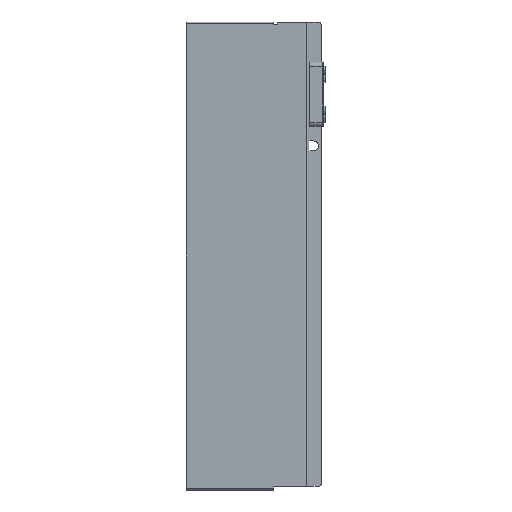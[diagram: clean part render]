
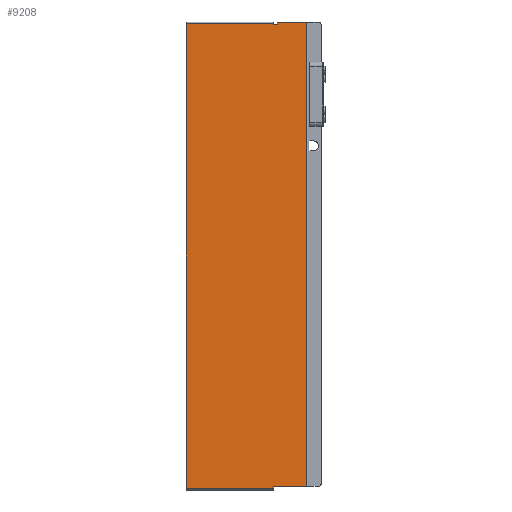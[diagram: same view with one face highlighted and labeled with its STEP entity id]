
A CAD part, left-side view. The second image highlights one B-rep face of the part: STEP entity #9208.
In plain terms, the highlighted planar face has unit normal (-1, 0, 0).
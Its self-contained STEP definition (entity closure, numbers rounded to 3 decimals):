
#32 = ORIENTED_EDGE ( 'NONE', *, *, #12169, .T. ) ;
#40 = VERTEX_POINT ( 'NONE', #8417 ) ;
#168 = EDGE_CURVE ( 'NONE', #204, #12776, #6565, .T. ) ;
#204 = VERTEX_POINT ( 'NONE', #11513 ) ;
#250 = EDGE_CURVE ( 'NONE', #5131, #204, #14104, .T. ) ;
#285 = VECTOR ( 'NONE', #10488, 1000. ) ;
#366 = DIRECTION ( 'NONE',  ( 0., 1., 0. ) ) ;
#434 = ORIENTED_EDGE ( 'NONE', *, *, #7521, .T. ) ;
#586 = CARTESIAN_POINT ( 'NONE',  ( -1.2, 20.5, 145. ) ) ;
#613 = EDGE_CURVE ( 'NONE', #12776, #10152, #13567, .T. ) ;
#680 = CARTESIAN_POINT ( 'NONE',  ( -1.2, 0., 145. ) ) ;
#956 = VERTEX_POINT ( 'NONE', #11822 ) ;
#957 = CARTESIAN_POINT ( 'NONE',  ( -1.2, 18.5, 143.7 ) ) ;
#994 = ORIENTED_EDGE ( 'NONE', *, *, #168, .T. ) ;
#1030 = LINE ( 'NONE', #9277, #3683 ) ;
#1057 = LINE ( 'NONE', #10960, #6291 ) ;
#1163 = CARTESIAN_POINT ( 'NONE',  ( -1.2, 75., 145. ) ) ;
#1591 = LINE ( 'NONE', #1163, #7504 ) ;
#1710 = AXIS2_PLACEMENT_3D ( 'NONE', #6629, #6915, #6959 ) ;
#1867 = ORIENTED_EDGE ( 'NONE', *, *, #2448, .T. ) ;
#2231 = EDGE_CURVE ( 'NONE', #13851, #40, #4700, .T. ) ;
#2288 = DIRECTION ( 'NONE',  ( 0., 0., 1. ) ) ;
#2317 = LINE ( 'NONE', #5803, #5308 ) ;
#2448 = EDGE_CURVE ( 'NONE', #4835, #5179, #9175, .T. ) ;
#2560 = ORIENTED_EDGE ( 'NONE', *, *, #250, .T. ) ;
#3319 = VECTOR ( 'NONE', #4584, 1000. ) ;
#3331 = DIRECTION ( 'NONE',  ( 1., 0., 0. ) ) ;
#3454 = CARTESIAN_POINT ( 'NONE',  ( -1.2, 0., 143.5 ) ) ;
#3683 = VECTOR ( 'NONE', #366, 1000. ) ;
#4099 = VERTEX_POINT ( 'NONE', #4693 ) ;
#4461 = EDGE_CURVE ( 'NONE', #4835, #4099, #14335, .T. ) ;
#4584 = DIRECTION ( 'NONE',  ( 0., 1., 0. ) ) ;
#4693 = CARTESIAN_POINT ( 'NONE',  ( -1.2, 20.5, -144. ) ) ;
#4700 = CIRCLE ( 'NONE', #6507, 0.2 ) ;
#4745 = VECTOR ( 'NONE', #5576, 1000. ) ;
#4773 = EDGE_LOOP ( 'NONE', ( #10393, #2560, #994, #12672, #434, #14448, #32, #10397, #9094, #5486, #4828, #10516, #1867 ) ) ;
#4828 = ORIENTED_EDGE ( 'NONE', *, *, #11224, .T. ) ;
#4835 = VERTEX_POINT ( 'NONE', #6684 ) ;
#5008 = AXIS2_PLACEMENT_3D ( 'NONE', #14429, #14481, #14281 ) ;
#5131 = VERTEX_POINT ( 'NONE', #9503 ) ;
#5179 = VERTEX_POINT ( 'NONE', #6294 ) ;
#5268 = EDGE_CURVE ( 'NONE', #5346, #956, #1591, .T. ) ;
#5308 = VECTOR ( 'NONE', #2288, 1000. ) ;
#5346 = VERTEX_POINT ( 'NONE', #7935 ) ;
#5486 = ORIENTED_EDGE ( 'NONE', *, *, #12277, .T. ) ;
#5576 = DIRECTION ( 'NONE',  ( 0., 1., 0. ) ) ;
#5803 = CARTESIAN_POINT ( 'NONE',  ( -1.2, 20.5, -146.2 ) ) ;
#5891 = VECTOR ( 'NONE', #9545, 1000. ) ;
#5955 = CARTESIAN_POINT ( 'NONE',  ( -1.2, 20.5, 143.8 ) ) ;
#5967 = DIRECTION ( 'NONE',  ( 0., -1., 0. ) ) ;
#6291 = VECTOR ( 'NONE', #9891, 1000. ) ;
#6294 = CARTESIAN_POINT ( 'NONE',  ( -1.2, 0., 145. ) ) ;
#6324 = VERTEX_POINT ( 'NONE', #5955 ) ;
#6507 = AXIS2_PLACEMENT_3D ( 'NONE', #7879, #7829, #10370 ) ;
#6550 = PLANE ( 'NONE',  #14375 ) ;
#6565 = LINE ( 'NONE', #10584, #285 ) ;
#6629 = CARTESIAN_POINT ( 'NONE',  ( -1.2, 18.7, 143.7 ) ) ;
#6684 = CARTESIAN_POINT ( 'NONE',  ( -1.2, 0., -144. ) ) ;
#6832 = EDGE_CURVE ( 'NONE', #6324, #5346, #1030, .T. ) ;
#6915 = DIRECTION ( 'NONE',  ( 1., 0., 0. ) ) ;
#6959 = DIRECTION ( 'NONE',  ( 0., 0., -1. ) ) ;
#7504 = VECTOR ( 'NONE', #8937, 1000. ) ;
#7521 = EDGE_CURVE ( 'NONE', #10152, #13851, #9195, .T. ) ;
#7673 = VECTOR ( 'NONE', #13827, 1000. ) ;
#7695 = VERTEX_POINT ( 'NONE', #12639 ) ;
#7773 = CARTESIAN_POINT ( 'NONE',  ( -1.2, -1.2, -144. ) ) ;
#7829 = DIRECTION ( 'NONE',  ( 1., 0., 0. ) ) ;
#7879 = CARTESIAN_POINT ( 'NONE',  ( -1.2, 20.3, 143.7 ) ) ;
#7935 = CARTESIAN_POINT ( 'NONE',  ( -1.2, 75., 143.8 ) ) ;
#8417 = CARTESIAN_POINT ( 'NONE',  ( -1.2, 20.5, 143.7 ) ) ;
#8917 = VECTOR ( 'NONE', #5967, 1000. ) ;
#8937 = DIRECTION ( 'NONE',  ( 0., 0., -1. ) ) ;
#9094 = ORIENTED_EDGE ( 'NONE', *, *, #5268, .T. ) ;
#9175 = LINE ( 'NONE', #680, #5891 ) ;
#9195 = LINE ( 'NONE', #3454, #3319 ) ;
#9208 = ADVANCED_FACE ( 'NONE', ( #10570 ), #6550, .F. ) ;
#9277 = CARTESIAN_POINT ( 'NONE',  ( -1.2, 0., 143.8 ) ) ;
#9503 = CARTESIAN_POINT ( 'NONE',  ( -1.2, 18.3, 145. ) ) ;
#9545 = DIRECTION ( 'NONE',  ( 0., 0., 1. ) ) ;
#9891 = DIRECTION ( 'NONE',  ( 0., -1., 0. ) ) ;
#9965 = CARTESIAN_POINT ( 'NONE',  ( -1.2, 0., 145. ) ) ;
#10152 = VERTEX_POINT ( 'NONE', #11392 ) ;
#10370 = DIRECTION ( 'NONE',  ( 0., 0., -1. ) ) ;
#10393 = ORIENTED_EDGE ( 'NONE', *, *, #10637, .F. ) ;
#10397 = ORIENTED_EDGE ( 'NONE', *, *, #6832, .T. ) ;
#10488 = DIRECTION ( 'NONE',  ( 0., 0., -1. ) ) ;
#10516 = ORIENTED_EDGE ( 'NONE', *, *, #4461, .F. ) ;
#10570 = FACE_OUTER_BOUND ( 'NONE', #4773, .T. ) ;
#10584 = CARTESIAN_POINT ( 'NONE',  ( -1.2, 18.5, 145. ) ) ;
#10637 = EDGE_CURVE ( 'NONE', #5131, #5179, #11915, .T. ) ;
#10960 = CARTESIAN_POINT ( 'NONE',  ( -1.2, 0., -145. ) ) ;
#11094 = DIRECTION ( 'NONE',  ( 0., 0., -1. ) ) ;
#11224 = EDGE_CURVE ( 'NONE', #7695, #4099, #2317, .T. ) ;
#11263 = CARTESIAN_POINT ( 'NONE',  ( -1.2, 20.3, 143.5 ) ) ;
#11392 = CARTESIAN_POINT ( 'NONE',  ( -1.2, 18.7, 143.5 ) ) ;
#11513 = CARTESIAN_POINT ( 'NONE',  ( -1.2, 18.5, 144.8 ) ) ;
#11822 = CARTESIAN_POINT ( 'NONE',  ( -1.2, 75., -145. ) ) ;
#11915 = LINE ( 'NONE', #12642, #8917 ) ;
#12169 = EDGE_CURVE ( 'NONE', #40, #6324, #13285, .T. ) ;
#12277 = EDGE_CURVE ( 'NONE', #956, #7695, #1057, .T. ) ;
#12639 = CARTESIAN_POINT ( 'NONE',  ( -1.2, 20.5, -145. ) ) ;
#12642 = CARTESIAN_POINT ( 'NONE',  ( -1.2, 0., 145. ) ) ;
#12672 = ORIENTED_EDGE ( 'NONE', *, *, #613, .T. ) ;
#12776 = VERTEX_POINT ( 'NONE', #957 ) ;
#13285 = LINE ( 'NONE', #586, #7673 ) ;
#13567 = CIRCLE ( 'NONE', #1710, 0.2 ) ;
#13827 = DIRECTION ( 'NONE',  ( 0., 0., 1. ) ) ;
#13851 = VERTEX_POINT ( 'NONE', #11263 ) ;
#14104 = CIRCLE ( 'NONE', #5008, 0.2 ) ;
#14281 = DIRECTION ( 'NONE',  ( 0., 0., -1. ) ) ;
#14335 = LINE ( 'NONE', #7773, #4745 ) ;
#14375 = AXIS2_PLACEMENT_3D ( 'NONE', #9965, #3331, #11094 ) ;
#14429 = CARTESIAN_POINT ( 'NONE',  ( -1.2, 18.3, 144.8 ) ) ;
#14448 = ORIENTED_EDGE ( 'NONE', *, *, #2231, .T. ) ;
#14481 = DIRECTION ( 'NONE',  ( -1., 0., 0. ) ) ;
